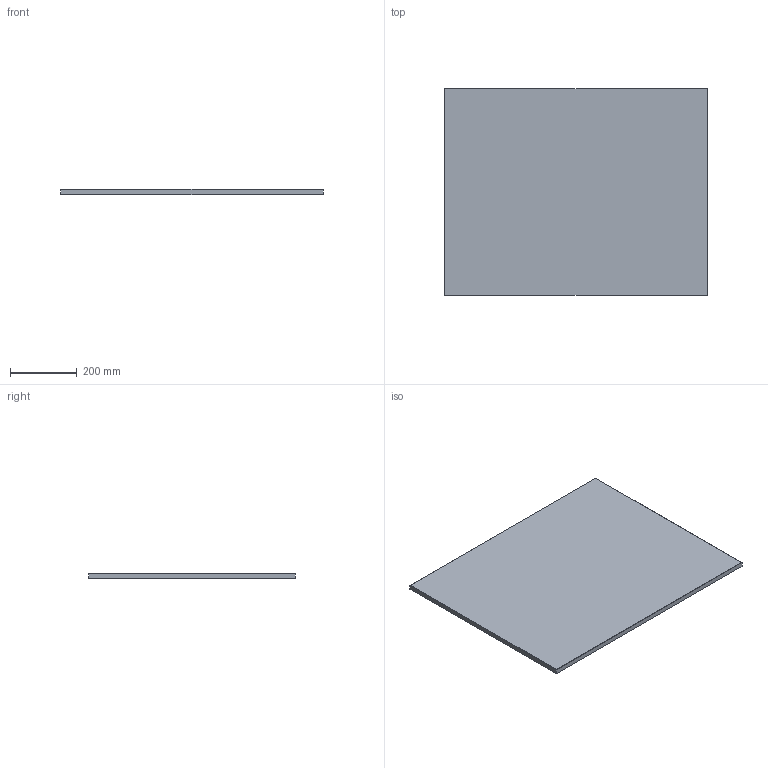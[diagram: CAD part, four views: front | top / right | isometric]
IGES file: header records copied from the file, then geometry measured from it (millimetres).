
Global section: file name: 80010; native system: Autodesk Inventor 2014; preprocessor: unknown; author: ARCH.CARLO COLOMBO; date: 20140526.111324; units: millimetre
Bounding box: 788 x 620 x 15 mm (x, y, z)
Volume: 7326993.3 mm3; surface area: 1017708.8 mm2
Topology: 1 solids, 1 shells, 10 faces, 20 edges, 12 vertices
Faces by surface type: bspline 10
